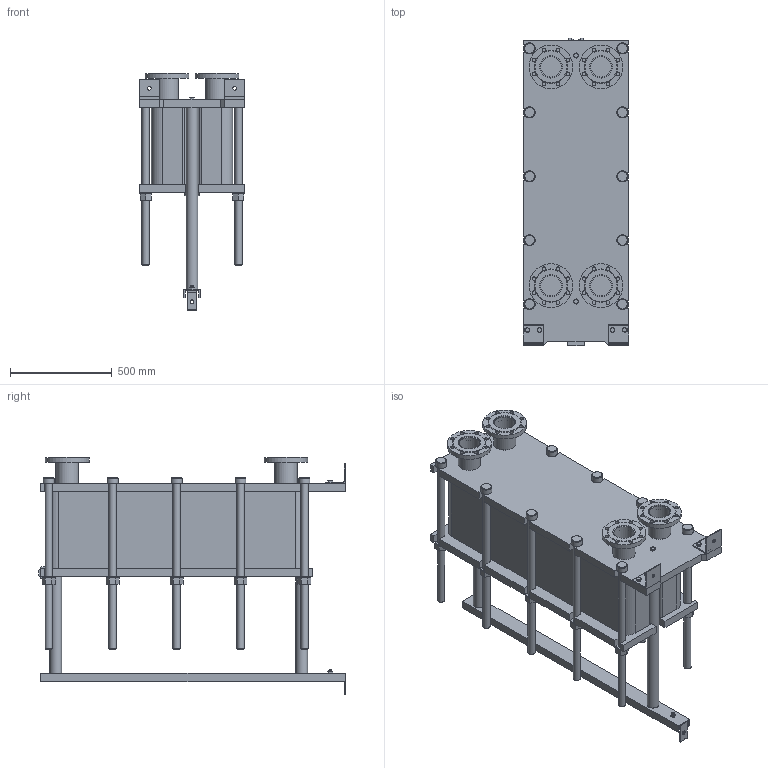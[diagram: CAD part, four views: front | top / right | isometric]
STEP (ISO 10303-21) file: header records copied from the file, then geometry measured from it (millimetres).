
FILE_DESCRIPTION(/* description */ (''),/* implementation_level */ '2;1');
FILE_NAME(/* name */ 'C:\Users\zhuro\Desktop\ENCO\TO\ЭН-04\ЭН-0,5-04-110-1.stp',/* time_stamp */ '2022-06-06T10:55:05+03:00',/* author */ ('zhuro'),/* organization */ (''),/* preprocessor_version */ 'ST-DEVELOPER v18.1',/* originating_system */ 'Autodesk Inventor 2022',/* authorisation */ '');
FILE_SCHEMA (('AUTOMOTIVE_DESIGN { 1 0 10303 214 3 1 1 }'));
Length unit declared in the file: millimetre
Products named in the file (1): ЭН-0,5-04-110-1
Bounding box: 520 x 1510 x 1170 mm (x, y, z)
Volume: 261401592.6 mm3; surface area: 8575162.9 mm2
Topology: 45 solids, 45 shells, 668 faces, 1611 edges, 1048 vertices
Faces by surface type: plane 457, cylinder 166, cone 39, torus 6
Full cylindrical faces by diameter (mm): 8 x4, 10 x2, 16 x8, 18 x35, 36 x25, 40 x2, 42 x1, 45 x4, 54 x10, 57 x2, 60 x10, 68 x2, 100 x4, 110 x8, 215 x4
Entity records: 23607 total; most frequent: CARTESIAN_POINT 7348, DIRECTION 3371, ORIENTED_EDGE 3142, EDGE_CURVE 1571, AXIS2_PLACEMENT_3D 1199, VERTEX_POINT 1044, LINE 973, VECTOR 973
